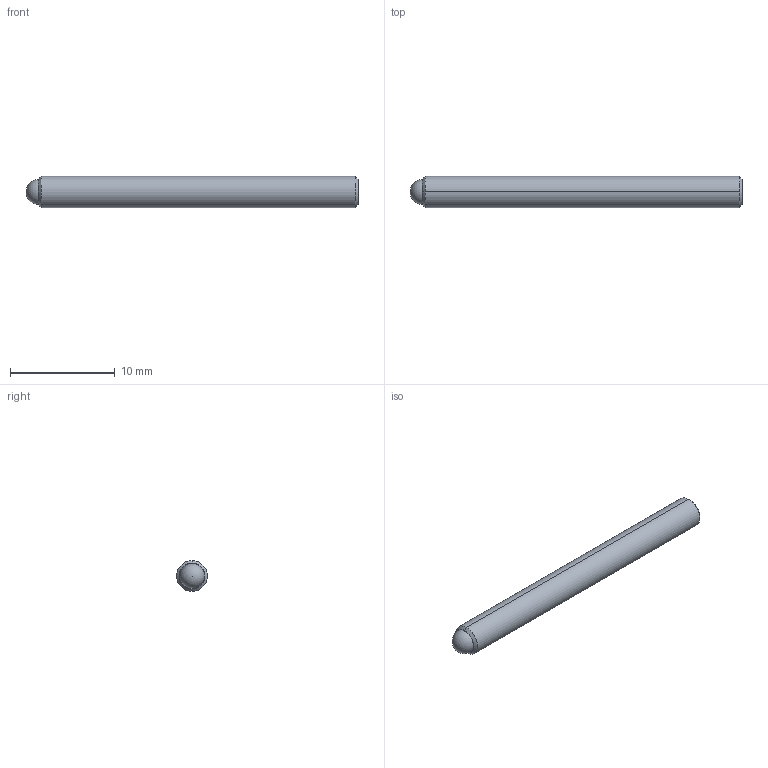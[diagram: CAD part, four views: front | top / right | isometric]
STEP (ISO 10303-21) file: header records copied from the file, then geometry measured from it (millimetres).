
FILE_DESCRIPTION (( 'STEP AP214' ), '1' );
FILE_NAME ('TS6-80-1250.STEP', '2014-07-28T19:33:00', ( 'workpc' ), ( 'Microsoft' ), 'SwSTEP 2.0', 'SolidWorks 2013', '' );
FILE_SCHEMA (( 'AUTOMOTIVE_DESIGN' ));
Length unit declared in the file: inch
Products named in the file (1): TS6-80-1250
Bounding box: 31.75 x 2.97 x 2.97 mm (x, y, z)
Volume: 205.4 mm3; surface area: 338.7 mm2
Topology: 2 solids, 2 shells, 20 faces, 45 edges, 29 vertices
Faces by surface type: plane 10, cylinder 4, cone 4, sphere 2
Entity records: 573 total; most frequent: DIRECTION 96, CARTESIAN_POINT 87, ORIENTED_EDGE 80, EDGE_CURVE 40, AXIS2_PLACEMENT_3D 35, LINE 26, VECTOR 26, VERTEX_POINT 26
